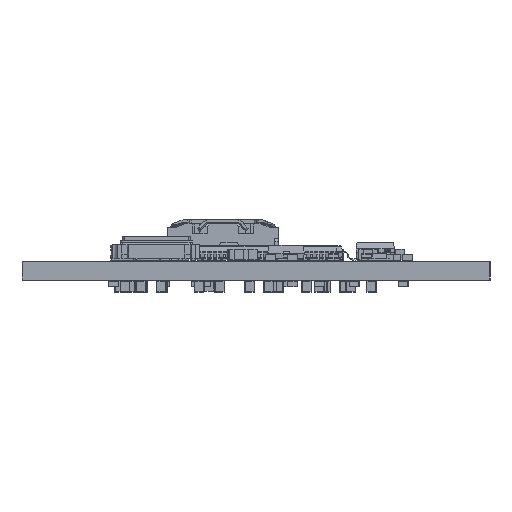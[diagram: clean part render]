
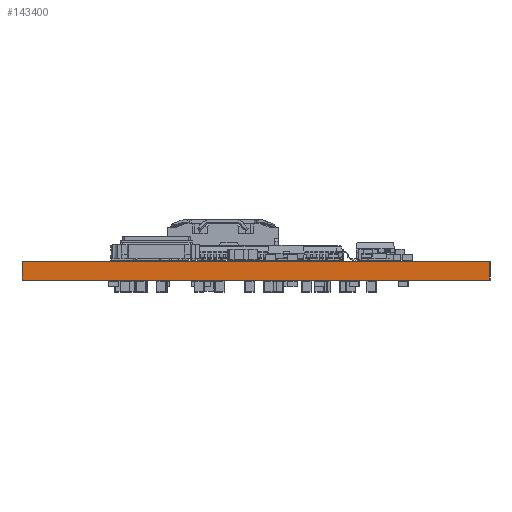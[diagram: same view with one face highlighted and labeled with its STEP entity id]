
A CAD part, left-side view. The second image highlights one B-rep face of the part: STEP entity #143400.
In plain terms, the highlighted planar face has unit normal (-1, 0, 0).
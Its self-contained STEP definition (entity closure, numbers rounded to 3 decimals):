
#143344 = VERTEX_POINT('',#143345);
#143345 = CARTESIAN_POINT('',(-33.338,-18.796,1.51));
#143351 = EDGE_CURVE('',#143352,#143344,#143354,.T.);
#143352 = VERTEX_POINT('',#143353);
#143353 = CARTESIAN_POINT('',(-33.338,-18.796,0.));
#143354 = LINE('',#143355,#143356);
#143355 = CARTESIAN_POINT('',(-33.338,-18.796,0.));
#143356 = VECTOR('',#143357,1.);
#143357 = DIRECTION('',(0.,0.,1.));
#143400 = ADVANCED_FACE('',(#143401),#143426,.T.);
#143401 = FACE_BOUND('',#143402,.T.);
#143402 = EDGE_LOOP('',(#143403,#143404,#143412,#143420));
#143403 = ORIENTED_EDGE('',*,*,#143351,.T.);
#143404 = ORIENTED_EDGE('',*,*,#143405,.T.);
#143405 = EDGE_CURVE('',#143344,#143406,#143408,.T.);
#143406 = VERTEX_POINT('',#143407);
#143407 = CARTESIAN_POINT('',(-33.338,18.796,1.51));
#143408 = LINE('',#143409,#143410);
#143409 = CARTESIAN_POINT('',(-33.338,-18.796,1.51));
#143410 = VECTOR('',#143411,1.);
#143411 = DIRECTION('',(0.,1.,0.));
#143412 = ORIENTED_EDGE('',*,*,#143413,.F.);
#143413 = EDGE_CURVE('',#143414,#143406,#143416,.T.);
#143414 = VERTEX_POINT('',#143415);
#143415 = CARTESIAN_POINT('',(-33.338,18.796,0.));
#143416 = LINE('',#143417,#143418);
#143417 = CARTESIAN_POINT('',(-33.338,18.796,0.));
#143418 = VECTOR('',#143419,1.);
#143419 = DIRECTION('',(0.,0.,1.));
#143420 = ORIENTED_EDGE('',*,*,#143421,.F.);
#143421 = EDGE_CURVE('',#143352,#143414,#143422,.T.);
#143422 = LINE('',#143423,#143424);
#143423 = CARTESIAN_POINT('',(-33.338,-18.796,0.));
#143424 = VECTOR('',#143425,1.);
#143425 = DIRECTION('',(0.,1.,0.));
#143426 = PLANE('',#143427);
#143427 = AXIS2_PLACEMENT_3D('',#143428,#143429,#143430);
#143428 = CARTESIAN_POINT('',(-33.338,-18.796,0.));
#143429 = DIRECTION('',(-1.,0.,0.));
#143430 = DIRECTION('',(0.,1.,0.));
